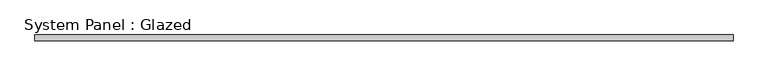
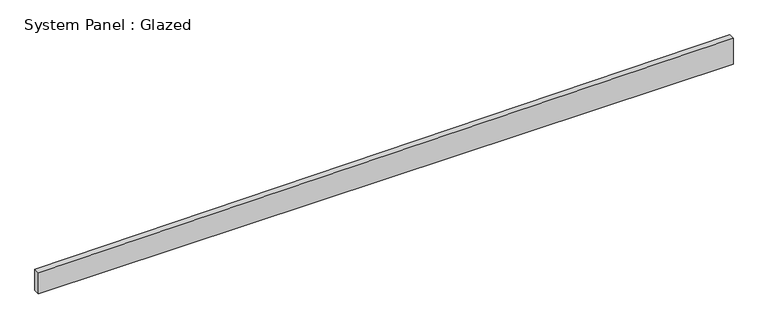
"""IFC4 building model written with IfcOpenShell, lengths in millimetres: plate geometry, System Panel : Glazed."""

from ifc_helpers import new_model, si_unit, frame, origin, place, context, project, spatial, polyline, outline, extrude, source, transform, mapped, element, save


def system_panel_glazed_9634abb3(model_context):
    return source(origin(), model_context, "Body", "SweptSolid", [
        extrude(outline(polyline([(0.0, -1504.95), (0.0, 1504.95), (118.5712593, 1504.95), (96.8270081, -1504.95), (0.0, -1504.95)])), frame((0.0, 19.05, 0.0), z_axis=(0.0, 1.0, 0.0), x_axis=(0.0, 0.0, 1.0)), (0.0, 0.0, 1.0), 25.4),
    ])


if __name__ == "__main__":
    model = new_model("IFC4")
    model_context = context("Model", 3, world=origin())
    ifc_project = project(units=[si_unit("LENGTHUNIT", "METRE", prefix="MILLI")], contexts=[model_context])
    site = spatial("IfcSite", under=ifc_project)
    building = spatial("IfcBuilding", under=site)
    placement = place(None, origin())
    system_panel_glazed_shape = system_panel_glazed_9634abb3(model_context)
    element("IfcPlate", 1, ObjectType="System Panel : Glazed", at=placement, inside=building, context=model_context, shape_type="MappedRepresentation", body=[
        mapped(system_panel_glazed_shape, transform((0.0, 0.0, 0.0), x_axis=(1.0, 0.0, 0.0), y_axis=(0.0, 1.0, 0.0), z_axis=(0.0, 0.0, 1.0))),
    ])
    save(model, "model.ifc")
